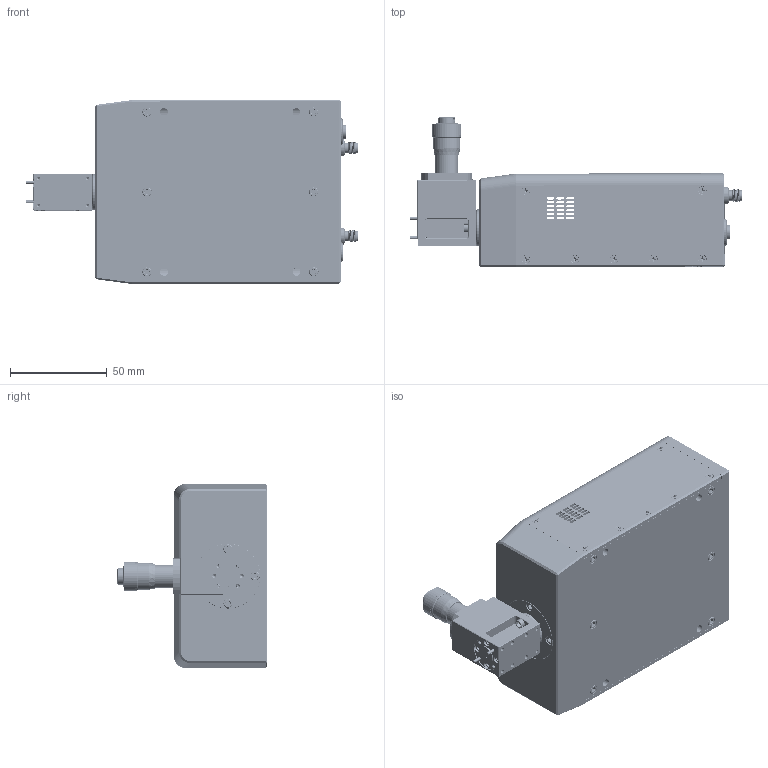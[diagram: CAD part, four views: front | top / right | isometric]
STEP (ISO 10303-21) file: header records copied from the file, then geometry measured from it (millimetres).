
FILE_DESCRIPTION (( 'STEP AP214' ), '1' );
FILE_NAME ('TO-RE-A Mountable.STEP', '2024-10-25T22:08:04', ( '' ), ( '' ), 'SwSTEP 2.0', 'SolidWorks 2021', '' );
FILE_SCHEMA (( 'AUTOMOTIVE_DESIGN' ));
Length unit declared in the file: inch
Products named in the file (1): TO-RE-A Mountable
Bounding box: 171.94 x 77.97 x 95.36 mm (x, y, z)
Volume: 247589.1 mm3; surface area: 126252.9 mm2
Topology: 67 solids, 78 shells, 4413 faces, 11411 edges, 7210 vertices
Faces by surface type: cylinder 1958, plane 1296, cone 863, bspline 263, sphere 21, torus 12
Entity records: 272047 total; most frequent: CARTESIAN_POINT 115193, ORIENTED_EDGE 22520, DIRECTION 18456, EDGE_CURVE 11260, VERTEX_POINT 7204, AXIS2_PLACEMENT_3D 7046, EDGE_LOOP 4894, LENGTH_MEASURE_WITH_UNIT 4482
